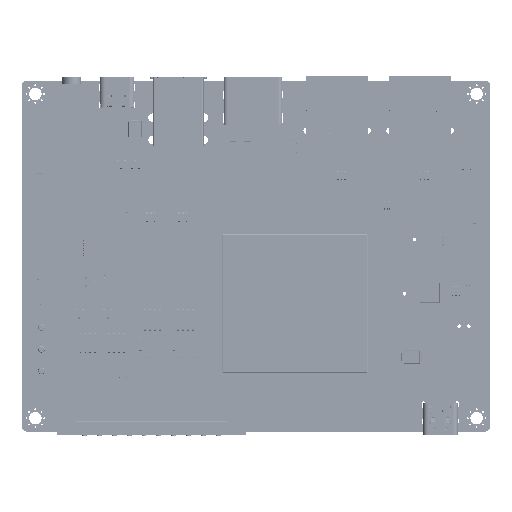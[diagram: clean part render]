
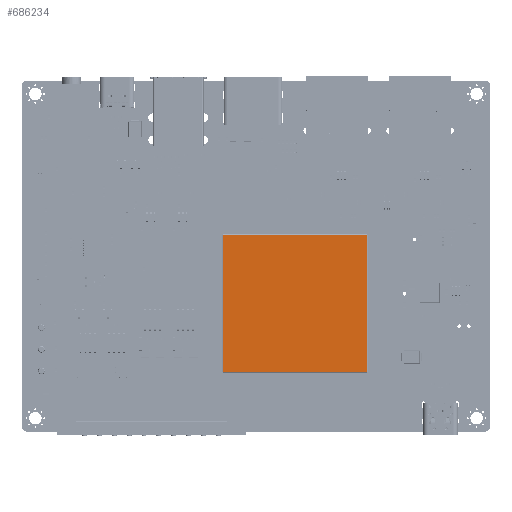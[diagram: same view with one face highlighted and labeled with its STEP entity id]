
A CAD part, top view. The second image highlights one B-rep face of the part: STEP entity #686234.
In plain terms, the highlighted planar face has unit normal (0, 0, 1) as drawn and (0, 1, 0) by its records, which use the part's own axes.
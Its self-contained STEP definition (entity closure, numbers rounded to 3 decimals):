
#682747=DIRECTION('',(0.,0.,-1.));
#682748=VECTOR('',#682747,37.1);
#682749=CARTESIAN_POINT('',(-17.55,0.2,18.55));
#682750=LINE('',#682749,#682748);
#684087=DIRECTION('',(-1.,0.,0.));
#684088=VECTOR('',#684087,35.1);
#684089=CARTESIAN_POINT('',(17.55,0.2,18.55));
#684090=LINE('',#684089,#684088);
#684117=DIRECTION('',(1.,0.,0.));
#684118=VECTOR('',#684117,35.1);
#684119=CARTESIAN_POINT('',(-17.55,0.2,-18.55));
#684120=LINE('',#684119,#684118);
#684162=DIRECTION('',(0.,0.,1.));
#684163=VECTOR('',#684162,37.1);
#684164=CARTESIAN_POINT('',(17.55,0.2,-18.55));
#684165=LINE('',#684164,#684163);
#684351=CARTESIAN_POINT('',(-17.55,0.2,-18.55));
#684352=VERTEX_POINT('',#684351);
#684353=CARTESIAN_POINT('',(-17.55,0.2,18.55));
#684354=VERTEX_POINT('',#684353);
#684363=CARTESIAN_POINT('',(17.55,0.2,18.55));
#684364=VERTEX_POINT('',#684363);
#684365=CARTESIAN_POINT('',(17.55,0.2,-18.55));
#684366=VERTEX_POINT('',#684365);
#686221=CARTESIAN_POINT('',(0.,0.2,0.));
#686222=DIRECTION('',(0.,1.,0.));
#686223=DIRECTION('',(1.,0.,0.));
#686224=AXIS2_PLACEMENT_3D('',#686221,#686222,#686223);
#686225=PLANE('',#686224);
#686226=ORIENTED_EDGE('',*,*,#686212,.T.);
#686227=ORIENTED_EDGE('',*,*,#685025,.T.);
#686229=ORIENTED_EDGE('',*,*,#686228,.T.);
#686231=ORIENTED_EDGE('',*,*,#686230,.T.);
#686232=EDGE_LOOP('',(#686226,#686227,#686229,#686231));
#686233=FACE_OUTER_BOUND('',#686232,.F.);
#685025=EDGE_CURVE('',#684354,#684352,#682750,.T.);
#686212=EDGE_CURVE('',#684364,#684354,#684090,.T.);
#686228=EDGE_CURVE('',#684352,#684366,#684120,.T.);
#686230=EDGE_CURVE('',#684366,#684364,#684165,.T.);
#686234=ADVANCED_FACE('',(#686233),#686225,.T.);
